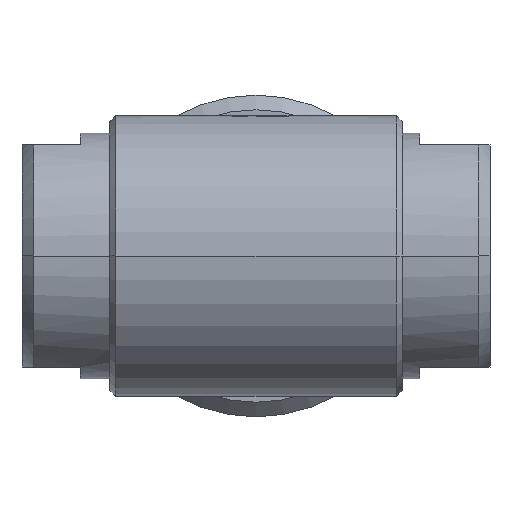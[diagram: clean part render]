
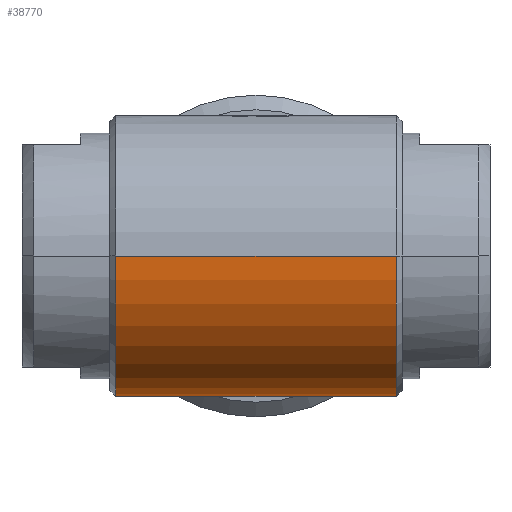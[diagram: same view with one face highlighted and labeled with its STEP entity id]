
A CAD part, front view. The second image highlights one B-rep face of the part: STEP entity #38770.
In plain terms, the highlighted cylindrical face has radius 24 mm (diameter 48 mm), a partial arc.
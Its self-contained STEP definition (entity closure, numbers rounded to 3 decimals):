
#275=DIRECTION('',(1.,0.,0.));
#276=VECTOR('',#275,17.493);
#277=CARTESIAN_POINT('',(-8.746,19.5,-13.991));
#278=LINE('',#277,#276);
#436=DIRECTION('',(1.,0.,0.));
#437=VECTOR('',#436,2.343);
#438=CARTESIAN_POINT('',(-12.855,19.5,-13.991));
#439=LINE('',#438,#437);
#625=DIRECTION('',(1.,0.,0.));
#626=VECTOR('',#625,2.343);
#627=CARTESIAN_POINT('',(10.512,19.5,-13.991));
#628=LINE('',#627,#626);
#10122=DIRECTION('',(1.,0.,0.));
#10123=VECTOR('',#10122,1.765);
#10124=CARTESIAN_POINT('',(-10.512,19.5,-13.991));
#10125=LINE('',#10124,#10123);
#10129=CARTESIAN_POINT('',(-19.,24.,0.));
#10130=CARTESIAN_POINT('',(-19.,24.,-0.794));
#10131=CARTESIAN_POINT('',(-18.901,23.922,
-2.398));
#10132=CARTESIAN_POINT('',(-18.429,23.55,
-4.842));
#10133=CARTESIAN_POINT('',(-17.63,22.928,
-7.24));
#10134=CARTESIAN_POINT('',(-16.46,22.038,
-9.617));
#10135=CARTESIAN_POINT('',(-14.912,20.901,
-11.886));
#10136=CARTESIAN_POINT('',(-13.594,19.987,
-13.312));
#10137=CARTESIAN_POINT('',(-12.855,19.5,-13.991));
#10142=DIRECTION('',(1.,0.,0.));
#10143=VECTOR('',#10142,48.);
#10144=CARTESIAN_POINT('',(-24.,-24.,0.));
#10145=LINE('',#10144,#10143);
#10149=CARTESIAN_POINT('',(12.855,19.5,-13.991));
#10150=CARTESIAN_POINT('',(13.594,19.987,
-13.312));
#10151=CARTESIAN_POINT('',(14.912,20.901,
-11.886));
#10152=CARTESIAN_POINT('',(16.46,22.038,
-9.616));
#10153=CARTESIAN_POINT('',(17.63,22.928,
-7.24));
#10154=CARTESIAN_POINT('',(18.429,23.55,
-4.842));
#10155=CARTESIAN_POINT('',(18.901,23.922,
-2.398));
#10156=CARTESIAN_POINT('',(19.,24.,-0.794));
#10157=CARTESIAN_POINT('',(19.,24.,0.));
#10162=DIRECTION('',(1.,0.,0.));
#10163=VECTOR('',#10162,1.765);
#10164=CARTESIAN_POINT('',(8.746,19.5,-13.991));
#10165=LINE('',#10164,#10163);
#11812=CARTESIAN_POINT('',(19.,24.,0.));
#11825=DIRECTION('',(1.,0.,0.));
#11826=VECTOR('',#11825,5.);
#11827=CARTESIAN_POINT('',(19.,24.,0.));
#11828=LINE('',#11827,#11826);
#11832=DIRECTION('',(1.,0.,0.));
#11833=VECTOR('',#11832,5.);
#11834=CARTESIAN_POINT('',(-24.,24.,0.));
#11835=LINE('',#11834,#11833);
#24697=CARTESIAN_POINT('',(-24.,0.,0.));
#24698=DIRECTION('',(1.,0.,0.));
#24699=DIRECTION('',(0.,-1.,0.));
#24700=AXIS2_PLACEMENT_3D('',#24697,#24698,#24699);
#25090=CARTESIAN_POINT('',(24.,0.,0.));
#25091=DIRECTION('',(1.,0.,0.));
#25092=DIRECTION('',(0.,-1.,0.));
#25093=AXIS2_PLACEMENT_3D('',#25090,#25091,#25092);
#27044=VERTEX_POINT('',#10129);
#27045=VERTEX_POINT('',#10137);
#27046=VERTEX_POINT('',#11812);
#27048=VERTEX_POINT('',#10149);
#27150=CARTESIAN_POINT('',(24.,-24.,0.));
#27151=CARTESIAN_POINT('',(24.,24.,0.));
#27152=VERTEX_POINT('',#27150);
#27153=VERTEX_POINT('',#27151);
#27158=CARTESIAN_POINT('',(-24.,24.,0.));
#27159=CARTESIAN_POINT('',(-24.,-24.,0.));
#27160=VERTEX_POINT('',#27158);
#27161=VERTEX_POINT('',#27159);
#28199=CARTESIAN_POINT('',(-10.512,19.5,-13.991));
#28200=CARTESIAN_POINT('',(-8.746,19.5,-13.991));
#28201=VERTEX_POINT('',#28199);
#28202=VERTEX_POINT('',#28200);
#28203=CARTESIAN_POINT('',(8.746,19.5,-13.991));
#28204=CARTESIAN_POINT('',(10.512,19.5,-13.991));
#28205=VERTEX_POINT('',#28203);
#28206=VERTEX_POINT('',#28204);
#38744=CARTESIAN_POINT('',(-40.,0.,0.));
#38745=DIRECTION('',(1.,0.,0.));
#38746=DIRECTION('',(0.,-1.,0.));
#38747=AXIS2_PLACEMENT_3D('',#38744,#38745,#38746);
#38748=CYLINDRICAL_SURFACE('',#38747,24.);
#38749=ORIENTED_EDGE('',*,*,#38655,.F.);
#38750=ORIENTED_EDGE('',*,*,#28905,.F.);
#38752=ORIENTED_EDGE('',*,*,#38751,.F.);
#38754=ORIENTED_EDGE('',*,*,#38753,.F.);
#38756=ORIENTED_EDGE('',*,*,#38755,.F.);
#38758=ORIENTED_EDGE('',*,*,#38757,.T.);
#38760=ORIENTED_EDGE('',*,*,#38759,.T.);
#38762=ORIENTED_EDGE('',*,*,#38761,.F.);
#38764=ORIENTED_EDGE('',*,*,#38763,.F.);
#38765=ORIENTED_EDGE('',*,*,#28965,.F.);
#38766=ORIENTED_EDGE('',*,*,#38658,.F.);
#38767=ORIENTED_EDGE('',*,*,#28838,.F.);
#38768=EDGE_LOOP('',(#38749,#38750,#38752,#38754,#38756,#38758,#38760,#38762,
#38764,#38765,#38766,#38767));
#38769=FACE_OUTER_BOUND('',#38768,.F.);
#38770=ADVANCED_FACE('',(#38769),#38748,.T.);
#10138=B_SPLINE_CURVE_WITH_KNOTS('',3,(#10129,#10130,#10131,#10132,#10133,
#10134,#10135,#10136,#10137),.UNSPECIFIED.,.F.,.F.,(4,1,1,1,1,1,4),(0.,
0.167,0.333,0.5,0.667,0.833,
1.),.UNSPECIFIED.);
#10158=B_SPLINE_CURVE_WITH_KNOTS('',3,(#10149,#10150,#10151,#10152,#10153,
#10154,#10155,#10156,#10157),.UNSPECIFIED.,.F.,.F.,(4,1,1,1,1,1,4),(0.,
0.167,0.333,0.5,0.667,0.833,
1.),.UNSPECIFIED.);
#24701=CIRCLE('',#24700,24.);
#25094=CIRCLE('',#25093,24.);
#28838=EDGE_CURVE('',#28202,#28205,#278,.T.);
#28905=EDGE_CURVE('',#27045,#28201,#439,.T.);
#28965=EDGE_CURVE('',#28206,#27048,#628,.T.);
#38655=EDGE_CURVE('',#28201,#28202,#10125,.T.);
#38658=EDGE_CURVE('',#28205,#28206,#10165,.T.);
#38751=EDGE_CURVE('',#27044,#27045,#10138,.T.);
#38753=EDGE_CURVE('',#27160,#27044,#11835,.T.);
#38755=EDGE_CURVE('',#27161,#27160,#24701,.T.);
#38757=EDGE_CURVE('',#27161,#27152,#10145,.T.);
#38759=EDGE_CURVE('',#27152,#27153,#25094,.T.);
#38761=EDGE_CURVE('',#27046,#27153,#11828,.T.);
#38763=EDGE_CURVE('',#27048,#27046,#10158,.T.);
